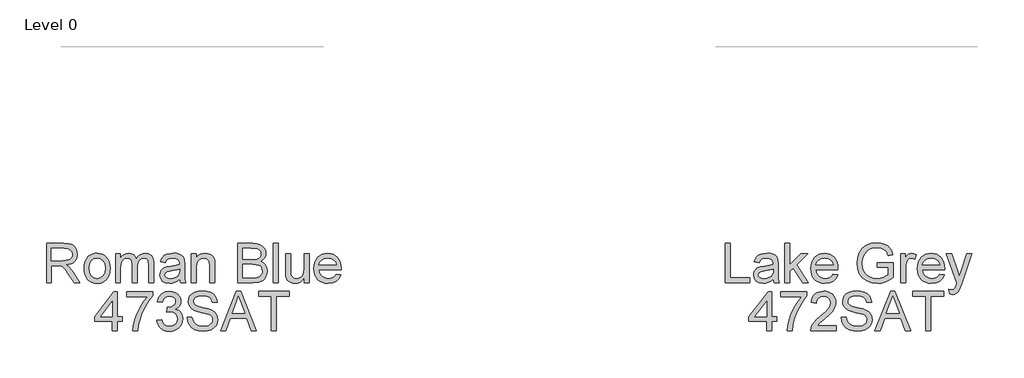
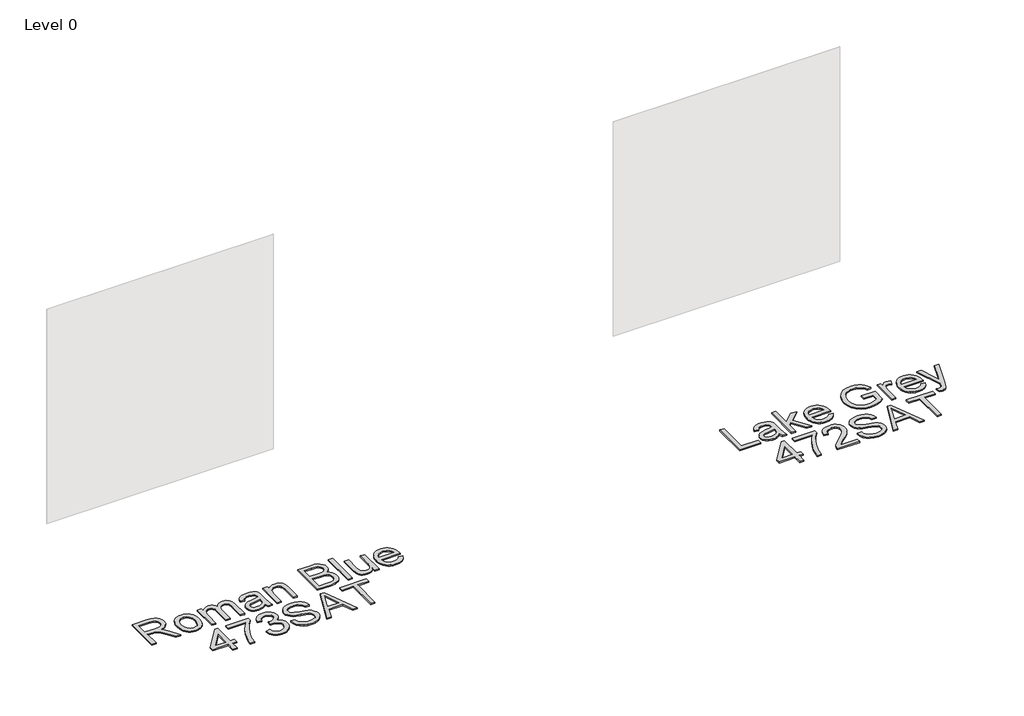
# One storey, part 34 of 37: 2 proxies.
"""IFC4 building model written with IfcOpenShell, lengths in millimetres."""

from ifc_helpers import new_model, si_unit, origin, origin_with_axes, place, context, project, spatial, polyline, outline, extrude, element, save

model = new_model("IFC4")

# Units and contexts
model_context = context("Model", 3, world=origin())
ifc_project = project(units=[si_unit("LENGTHUNIT", "METRE", prefix="MILLI")], contexts=[model_context])

# Site, building, storey
site = spatial("IfcSite", under=ifc_project)
building = spatial("IfcBuilding", under=site)
storey = spatial("IfcBuildingStorey", under=building, Name="Level 0", Elevation=0.0)

# Proxies
placement = place(None, origin())
element("IfcBuildingElementProxy", 1, Name="300mm Arial", ObjectType="300mm Arial", at=placement, inside=storey, context=model_context, shape_type="SweptSolid", body=[
    extrude(outline(polyline([(32435.6895679, -11982.860494), (32435.6895679, -11681.4915635), (32565.5519122, -11681.4915635), (32600.4547165, -11683.5241116), (32625.8477712, -11689.6217556), (32644.4074179, -11700.8789447), (32658.809998, -11718.3901276), (32668.0530331, -11740.1043624), (32671.1340448, -11763.9707069), (32666.0296821, -11793.6587839), (32650.7165941, -11818.2700893), (32639.1168149, -11828.2994722), (32624.7349282, -11836.3147012), (32587.6248319, -11846.3026974), (32609.035564, -11862.4159288), (32639.5697696, -11901.1906911), (32689.8224502, -11982.860494), (32646.0444927, -11982.860494), (32606.828272, -11920.3941312), (32578.5013584, -11879.0441949), (32558.5989425, -11859.509661), (32540.6830893, -11852.3359621), (32518.8308988, -11851.0115869), (32473.3606842, -11851.0115869), (32473.3606842, -11982.860494), (32435.6895679, -11982.860494)]), holes=[polyline([(32473.3606842, -11813.3404706), (32557.6792375, -11813.3404706), (32581.8950698, -11812.0068984), (32600.6846427, -11808.0061817), (32614.8297054, -11801.0716061), (32625.1120072, -11790.9364571), (32631.3751982, -11778.6767896), (32633.4629285, -11765.3686584), (32629.4806059, -11746.9929528), (32617.5336381, -11732.1857025), (32596.9782316, -11722.4184355), (32567.170593, -11719.1626798), (32473.3606842, -11719.1626798), (32473.3606842, -11813.3404706)])]), origin_with_axes(), (0.0, 0.0, 1.0), 10.0),
    extrude(outline(polyline([(32722.9318297, -11872.2015898), (32724.9689763, -11843.5389839), (32731.0804159, -11818.8403064), (32741.2661487, -11798.1055575), (32755.5261745, -11781.334737), (32769.8827694, -11770.6155754), (32785.7292863, -11762.9590314), (32803.0657253, -11758.3651049), (32821.8920864, -11756.8337961), (32842.6751199, -11758.698498), (32861.4669921, -11764.2926036), (32878.2677029, -11773.6161129), (32893.0772525, -11786.669026), (32905.1644753, -11803.0098843), (32913.7982059, -11822.1972296), (32918.9784442, -11844.2310619), (32920.7051903, -11869.1113811), (32917.6517698, -11907.1687735), (32908.4915081, -11936.1394806), (32893.4911197, -11957.8353213), (32872.9173192, -11974.0681143), (32848.4807576, -11984.1940662), (32821.8920864, -11987.5693835), (32800.8055503, -11985.7115794), (32781.8389342, -11980.1381672), (32764.9922381, -11970.8491468), (32750.265462, -11957.8445183), (32738.3069979, -11941.3450108), (32729.7652378, -11921.5713536), (32724.6401817, -11898.5235466), (32722.9318297, -11872.2015898)]), holes=[polyline([(32760.602946, -11872.1280134), (32764.9623477, -11906.2214773), (32778.0405526, -11930.5108861), (32797.7222393, -11945.0514219), (32821.8920864, -11949.8982672), (32845.9515689, -11945.0238308), (32865.5964675, -11930.4005215), (32878.6746724, -11905.789216), (32883.034074, -11870.950791), (32878.6470812, -11837.8506085), (32865.4861029, -11813.8922936), (32845.8136132, -11799.3517577), (32821.8920864, -11794.5049125), (32797.7222393, -11799.3333636), (32778.0405526, -11813.8187172), (32764.9623477, -11838.0529436), (32760.602946, -11872.1280134)])]), origin_with_axes(), (0.0, 0.0, 1.0), 10.0),
    extrude(outline(polyline([(32963.0851962, -11982.860494), (32963.0851962, -11761.5426857), (33000.7563125, -11761.5426857), (33000.7563125, -11797.9630032), (33012.0870779, -11781.2335695), (33026.6552049, -11768.1277734), (33043.9640528, -11759.6572905), (33063.5169809, -11756.8337961), (33084.4678605, -11759.7124728), (33101.2616736, -11768.3485026), (33113.8064496, -11782.1716686), (33122.0102181, -11800.6117536), (33135.7414136, -11781.4588972), (33151.4039895, -11767.7782855), (33168.9979459, -11759.5699185), (33188.5232828, -11756.8337961), (33216.8409994, -11761.3863358), (33237.782682, -11775.0439549), (33250.7229312, -11798.1745354), (33255.0363476, -11831.1459592), (33255.0363476, -11982.860494), (33217.3652312, -11982.860494), (33217.3652312, -11847.332767), (33213.8703523, -11815.8788564), (33208.9591277, -11807.2060383), (33201.2152117, -11800.3910244), (33191.2548066, -11795.9764404), (33179.6941149, -11794.5049125), (33159.2858613, -11798.2757029), (33142.648398, -11809.5880743), (33131.584347, -11829.2145787), (33127.89633, -11857.9277684), (33127.89633, -11982.860494), (33090.2252137, -11982.860494), (33090.2252137, -11843.1389122), (33088.0455129, -11821.8385447), (33081.5064104, -11806.6450183), (33070.000901, -11797.5399389), (33052.9219794, -11794.5049125), (33038.4090347, -11796.5282634), (33025.0365242, -11802.5983163), (33014.0000643, -11812.5679184), (33006.4952716, -11826.2899168), (33002.1910523, -11845.3278101), (33000.7563125, -11871.2450966), (33000.7563125, -11982.860494), (32963.0851962, -11982.860494)])), origin_with_axes(), (0.0, 0.0, 1.0), 10.0),
    extrude(outline(polyline([(33452.8097082, -11954.6071568), (33434.8110815, -11970.0398064), (33416.279026, -11980.1381672), (33396.7904773, -11985.7115794), (33375.9223712, -11987.5693835), (33344.4408694, -11983.0996173), (33321.2183185, -11969.6903186), (33306.8985118, -11949.3280501), (33302.1252429, -11923.9993748), (33303.9278647, -11908.3827841), (33309.33573, -11894.2009331), (33317.6774543, -11882.0608273), (33328.2816528, -11872.5694718), (33354.6587918, -11860.2086368), (33387.2531366, -11854.5432541), (33425.7703815, -11848.5835657), (33452.588979, -11841.5938078), (33452.8097082, -11833.2060983), (33450.2161401, -11816.3938912), (33442.4354359, -11805.3942195), (33425.0346175, -11797.2272392), (33400.791194, -11794.5049125), (33378.3503923, -11796.3167313), (33362.6786193, -11801.7521878), (33351.9916474, -11811.8045633), (33344.5052488, -11827.4671392), (33306.8341325, -11822.7582497), (33313.3732349, -11802.156858), (33323.1313049, -11785.9700502), (33337.0188502, -11773.590821), (33355.9463788, -11764.4121652), (33379.0953534, -11758.7283884), (33405.6472364, -11756.8337961), (33431.1138675, -11758.5076592), (33451.301392, -11763.5292485), (33466.5225095, -11771.0800264), (33477.0899198, -11780.3414556), (33484.0980718, -11791.7917827), (33488.6414145, -11805.9092543), (33490.4808245, -11838.8714811), (33490.4808245, -11885.7396473), (33492.3938108, -11951.1858542), (33499.8986035, -11982.860494), (33462.2274872, -11982.860494), (33452.8097082, -11954.6071568)]), holes=[polyline([(33452.8097082, -11879.2649241), (33392.0356026, -11890.8164188), (33359.6251988, -11896.9232599), (33344.9467072, -11906.8560738), (33339.7963592, -11921.3506244), (33342.6014595, -11932.5526311), (33351.0167601, -11941.7312869), (33364.8583202, -11947.8565221), (33383.9421987, -11949.8982672), (33404.1757084, -11947.64499), (33422.0547734, -11940.8851583), (33436.549324, -11930.9247533), (33446.6292906, -11919.069756), (33451.0990569, -11906.8560738), (33452.588979, -11889.933502), (33452.8097082, -11879.2649241)])]), origin_with_axes(), (0.0, 0.0, 1.0), 10.0),
    extrude(outline(polyline([(33542.2786094, -11982.860494), (33542.2786094, -11761.5426857), (33579.9497257, -11761.5426857), (33579.9497257, -11792.4447733), (33593.0371277, -11776.8649708), (33608.7548859, -11765.7365404), (33627.1030004, -11759.0594822), (33648.0814712, -11756.8337961), (33666.6503149, -11758.6272209), (33683.6556601, -11764.0074951), (33697.837511, -11772.303234), (33707.9358718, -11782.8430532), (33719.2298491, -11810.5445674), (33721.2164118, -11846.964885), (33721.2164118, -11982.860494), (33683.5452955, -11982.860494), (33683.5452955, -11852.0416565), (33679.204288, -11818.7115477), (33673.1986144, -11808.7879309), (33663.8636088, -11801.0900002), (33651.8982469, -11796.1511844), (33638.0015045, -11794.5049125), (33615.9377819, -11798.2021265), (33597.1298149, -11809.2937687), (33589.6135259, -11818.3482643), (33584.244748, -11830.7228949), (33579.9497257, -11865.4325611), (33579.9497257, -11982.860494), (33542.2786094, -11982.860494)])), origin_with_axes(), (0.0, 0.0, 1.0), 10.0),
    extrude(outline(polyline([(33895.4453248, -11982.860494), (33895.4453248, -11681.4915635), (34010.4452364, -11681.4915635), (34042.073891, -11683.7080526), (34066.7679699, -11690.3575196), (34085.6954986, -11701.6055116), (34100.0245023, -11717.6175755), (34109.0468082, -11736.4531336), (34112.0542435, -11756.1716086), (34109.5250548, -11774.317388), (34101.9374886, -11791.3779155), (34089.2363628, -11806.3047274), (34071.3664948, -11818.0493601), (34092.7128476, -11829.1961846), (34108.4857882, -11846.1555446), (34118.225464, -11867.8054), (34121.4720226, -11893.0237108), (34119.2555336, -11914.0389697), (34112.6060665, -11933.5275184), (34102.6824497, -11950.1006023), (34090.6435114, -11962.3694668), (34075.9006404, -11971.253817), (34057.8652256, -11977.6733578), (34009.5623197, -11982.860494), (33895.4453248, -11982.860494)]), holes=[polyline([(33933.1164411, -11803.9226915), (34001.9103742, -11803.9226915), (34042.083088, -11800.68533), (34056.1453773, -11795.1027207), (34066.2529351, -11786.7426024), (34072.3505792, -11775.7337336), (34074.3831272, -11762.2048733), (34072.4885349, -11749.071486), (34066.8047581, -11737.630356), (34057.5893141, -11728.7000206), (34045.0997204, -11723.0990172), (33996.6864498, -11719.1626798), (33933.1164411, -11719.1626798), (33933.1164411, -11803.9226915)]), polyline([(33933.1164411, -11945.1893777), (34010.37166, -11945.1893777), (34038.3306917, -11943.7178497), (34061.985504, -11935.5140812), (34077.657277, -11918.7754504), (34082.264999, -11906.9480443), (34083.8009063, -11893.3915928), (34081.9982845, -11877.6462434), (34076.5904192, -11864.1081859), (34067.145049, -11853.5223815), (34053.2299125, -11846.6337912), (34033.5206346, -11842.8538037), (34006.6928401, -11841.5938078), (33933.1164411, -11841.5938078), (33933.1164411, -11945.1893777)])]), origin_with_axes(), (0.0, 0.0, 1.0), 10.0),
    extrude(outline(polyline([(34168.560918, -11982.860494), (34168.560918, -11681.4915635), (34206.2320343, -11681.4915635), (34206.2320343, -11982.860494), (34168.560918, -11982.860494)])), origin_with_axes(), (0.0, 0.0, 1.0), 10.0),
    extrude(outline(polyline([(34404.0053949, -11982.860494), (34404.0053949, -11944.8214957), (34390.375367, -11963.5236966), (34374.5012589, -11976.8824116), (34356.3830706, -11984.8976405), (34336.0208022, -11987.5693835), (34317.6726877, -11985.6931853), (34300.593766, -11980.0645908), (34286.2647623, -11971.6033049), (34276.1664016, -11961.2290327), (34264.9460007, -11933.4907302), (34262.7387087, -11898.4683643), (34262.7387087, -11761.5426857), (34300.409825, -11761.5426857), (34300.409825, -11880.7364521), (34302.6906934, -11919.1433324), (34308.1813322, -11931.9548229), (34317.5899142, -11941.6944987), (34330.2910401, -11947.8473251), (34345.6593105, -11949.8982672), (34361.9104976, -11947.8013398), (34377.113221, -11941.5105577), (34389.6488, -11931.605335), (34397.8985538, -11918.6650858), (34402.4786846, -11900.9423707), (34404.0053949, -11876.6897502), (34404.0053949, -11761.5426857), (34441.6765112, -11761.5426857), (34441.6765112, -11982.860494), (34404.0053949, -11982.860494)])), origin_with_axes(), (0.0, 0.0, 1.0), 10.0),
    extrude(outline(polyline([(34648.4261925, -11916.9360404), (34685.3615448, -11921.64493), (34672.0534136, -11949.4752029), (34650.8174255, -11970.2789297), (34622.1318269, -11983.2467701), (34586.4748645, -11987.5693835), (34563.1005622, -11985.7046817), (34542.2738428, -11980.1105761), (34523.9947061, -11970.7870668), (34508.2631523, -11957.7341537), (34495.6126102, -11941.3151204), (34486.5765087, -11921.8932503), (34481.1548478, -11899.4685435), (34479.3476275, -11874.0409998), (34481.1732419, -11847.7512327), (34486.6500851, -11824.5792656), (34495.7781571, -11804.5250983), (34508.5574579, -11787.5887309), (34524.247625, -11774.133447), (34542.1082959, -11764.5225298), (34562.1394705, -11758.7559796), (34584.3411489, -11756.8337961), (34605.8277567, -11758.751381), (34625.2588238, -11764.5041357), (34642.6343503, -11774.0920602), (34657.9543362, -11787.5151545), (34670.4600247, -11804.4147337), (34679.3926594, -11824.4321128), (34684.7522402, -11847.5672917), (34686.5387672, -11873.8202706), (34686.318038, -11883.9738137), (34517.0187438, -11883.9738137), (34523.5394522, -11912.1719686), (34538.6869933, -11932.902119), (34560.5483809, -11945.6492302), (34587.2106285, -11949.8982672), (34607.2601972, -11947.9300985), (34624.1459808, -11942.0255925), (34637.8679792, -11931.8168672), (34648.4261925, -11916.9360404)]), holes=[polyline([(34517.0187438, -11846.3026974), (34648.8676509, -11846.3026974), (34643.7724852, -11826.4002814), (34633.7844891, -11812.1632482), (34611.821934, -11798.9194964), (34584.1939961, -11794.5049125), (34558.8009414, -11798.0273826), (34537.8040765, -11808.5947929), (34523.2083584, -11825.0667092), (34517.0187438, -11846.3026974)])]), origin_with_axes(), (0.0, 0.0, 1.0), 10.0),
    extrude(outline(polyline([(32939.5407485, -12348.7849475), (32939.5407485, -12278.1516044), (32802.9829519, -12278.1516044), (32802.9829519, -12240.4804881), (32948.9585276, -12052.1249066), (32977.2118648, -12052.1249066), (32977.2118648, -12240.4804881), (33014.8829811, -12240.4804881), (33014.8829811, -12278.1516044), (32977.2118648, -12278.1516044), (32977.2118648, -12348.7849475), (32939.5407485, -12348.7849475)]), holes=[polyline([(32939.5407485, -12240.4804881), (32939.5407485, -12124.0826249), (32849.3360833, -12240.4804881), (32939.5407485, -12240.4804881)])]), origin_with_axes(), (0.0, 0.0, 1.0), 10.0),
    extrude(outline(polyline([(33047.8452079, -12089.7960229), (33047.8452079, -12052.1249066), (33245.6185685, -12052.1249066), (33245.6185685, -12082.5855358), (33217.4296106, -12118.2608923), (33189.5165642, -12163.6299393), (33164.8960617, -12214.5540045), (33146.5847354, -12266.8944154), (33137.6084147, -12306.0554538), (33132.6052196, -12348.7849475), (33094.9341033, -12348.7849475), (33099.0083963, -12309.9550029), (33109.9069005, -12263.8042066), (33127.33531, -12214.8850983), (33150.9993193, -12167.7502177), (33178.6272572, -12125.1402856), (33207.9474522, -12089.7960229), (33047.8452079, -12089.7960229)])), origin_with_axes(), (0.0, 0.0, 1.0), 10.0),
    extrude(outline(polyline([(33278.5807952, -12268.7338254), (33316.2519115, -12264.0249358), (33324.6856063, -12287.6981422), (33337.0372443, -12303.6826149), (33353.9138308, -12312.7876943), (33375.9223712, -12315.8227207), (33401.7476872, -12311.6472601), (33421.6868914, -12299.1208782), (33434.4340025, -12280.4324728), (33438.6830395, -12257.7709419), (33434.4707907, -12236.2590422), (33421.8340442, -12218.8122386), (33402.7041804, -12207.2515469), (33379.0125799, -12203.397983), (33352.5986527, -12207.5182614), (33356.7925074, -12169.8471451), (33362.8257721, -12170.2886035), (33385.3953325, -12167.5846708), (33405.57366, -12159.4728728), (33419.8106932, -12145.7508744), (33424.5563709, -12126.2163404), (33421.1166743, -12109.9467592), (33410.7975843, -12096.7489926), (33395.0522349, -12088.0025982), (33375.33376, -12085.0871334), (33355.5784968, -12088.0301893), (33339.4284772, -12096.8593572), (33327.6378593, -12111.574637), (33320.9608011, -12132.1760288), (33283.2896848, -12127.4671392), (33294.3813269, -12093.6403898), (33314.118196, -12068.3852908), (33341.1207344, -12052.6583355), (33374.0093848, -12047.4160171), (33397.6917882, -12050.0003881), (33419.4428112, -12057.7535011), (33437.7817287, -12069.9855775), (33451.2278156, -12086.0068384), (33459.4775693, -12104.4653175), (33462.2274872, -12124.0090485), (33459.6155251, -12142.2192072), (33451.7796386, -12158.7371088), (33438.8301923, -12172.8085951), (33420.877551, -12183.6795081), (33444.4587869, -12193.2076518), (33461.9331816, -12209.4312477), (33472.7489123, -12231.4673793), (33476.3541558, -12258.4331295), (33474.5515341, -12277.5445992), (33469.1436687, -12295.1477526), (33460.1305599, -12311.2425899), (33447.5122074, -12325.829111), (33432.1393386, -12337.9324287), (33414.8626804, -12346.5776555), (33395.6822328, -12351.7647917), (33374.597996, -12353.4938371), (33355.5417086, -12352.0177105), (33338.1776785, -12347.589331), (33322.5059055, -12340.2086985), (33308.5263897, -12329.875813), (33296.8047496, -12317.1976797), (33287.9066038, -12302.781304), (33281.8319524, -12286.6266859), (33278.5807952, -12268.7338254)])), origin_with_axes(), (0.0, 0.0, 1.0), 10.0),
    extrude(outline(polyline([(33509.3163826, -12245.1893777), (33546.9874989, -12245.1893777), (33551.3101124, -12266.0942721), (33559.1276048, -12282.8972822), (33571.3228929, -12296.2330045), (33588.7788936, -12306.7360355), (33610.1160493, -12313.5510494), (33633.9548026, -12315.8227207), (33654.9424704, -12314.1028724), (33673.3181761, -12308.9433274), (33688.2081998, -12300.7763471), (33698.7388219, -12290.0341929), (33705.0020129, -12277.700949), (33707.0897432, -12264.7606998), (33705.5262447, -12252.1515444), (33700.8357493, -12241.2530403), (33691.3076056, -12231.9548229), (33675.2311624, -12224.1465276), (33620.379957, -12209.7623415), (33584.3735067, -12200.2433949), (33561.3348967, -12191.1843008), (33542.582112, -12178.510766), (33529.292375, -12163.1516928), (33521.373715, -12145.4381747), (33518.7341617, -12125.7013056), (33521.9991144, -12103.637583), (33531.7939725, -12083.0637824), (33547.8612187, -12065.6261758), (33569.9433354, -12052.9710352), (33596.4492332, -12045.2731044), (33625.7878223, -12042.7071275), (33657.5728267, -12045.3926661), (33685.3847055, -12053.4492818), (33708.2301774, -12066.7114277), (33725.115961, -12085.013557), (33735.8029329, -12107.2152354), (33740.05197, -12132.1760288), (33702.3808537, -12132.1760288), (33695.4646722, -12109.6984389), (33681.043698, -12093.4748429), (33658.5109258, -12083.6523936), (33627.2593503, -12080.3782438), (33595.2720108, -12083.6156054), (33573.3278498, -12093.3276901), (33560.6359209, -12107.6199056), (33556.405278, -12124.5976597), (33559.4035163, -12139.0738162), (33568.398231, -12150.7172813), (33589.6618104, -12161.1283418), (33629.9081006, -12171.7601314), (33671.4419779, -12181.8584922), (33696.5683182, -12190.669266), (33718.0434296, -12204.3360821), (33733.0254239, -12221.2034716), (33741.8270006, -12241.0874934), (33744.7608595, -12263.8042066), (33741.3855422, -12287.0267576), (33731.2595903, -12308.869751), (33714.796871, -12327.668521), (33692.4112516, -12341.7584014), (33665.4914866, -12350.5599781), (33635.4263306, -12353.4938371), (33598.5185694, -12350.3300519), (33568.1407136, -12340.8386964), (33543.9432754, -12324.9829824), (33525.5767668, -12302.7261217), (33513.7861489, -12275.6132187), (33509.3163826, -12245.1893777)])), origin_with_axes(), (0.0, 0.0, 1.0), 10.0),
    extrude(outline(polyline([(33766.1715917, -12348.7849475), (33886.4690041, -12047.4160171), (33918.5483141, -12047.4160171), (34038.8457265, -12348.7849475), (33999.0408946, -12348.7849475), (33964.5335634, -12254.6071568), (33840.4101783, -12254.6071568), (33805.9764235, -12348.7849475), (33766.1715917, -12348.7849475)]), holes=[polyline([(33854.2425413, -12216.9360404), (33950.7747768, -12216.9360404), (33923.6250856, -12142.8446066), (33902.5086591, -12085.0871334), (33883.7466773, -12136.3698835), (33854.2425413, -12216.9360404)])]), origin_with_axes(), (0.0, 0.0, 1.0), 10.0),
    extrude(outline(polyline([(34154.4342494, -12348.7849475), (34154.4342494, -12085.0871334), (34055.5475691, -12085.0871334), (34055.5475691, -12047.4160171), (34290.992046, -12047.4160171), (34290.992046, -12085.0871334), (34192.1053657, -12085.0871334), (34192.1053657, -12348.7849475), (34154.4342494, -12348.7849475)])), origin_with_axes(), (0.0, 0.0, 1.0), 10.0),
])
element("IfcBuildingElementProxy", 2, Name="300mm Arial", ObjectType="300mm Arial", at=placement, inside=storey, context=model_context, shape_type="SweptSolid", body=[
    extrude(outline(polyline([(37621.6907047, -11982.860494), (37621.6907047, -11681.4915635), (37659.361821, -11681.4915635), (37659.361821, -11945.1893777), (37810.0462862, -11945.1893777), (37810.0462862, -11982.860494), (37621.6907047, -11982.860494)])), origin_with_axes(), (0.0, 0.0, 1.0), 10.0),
    extrude(outline(polyline([(37988.9840886, -11954.6071568), (37970.985462, -11970.0398064), (37952.4534065, -11980.1381672), (37932.9648578, -11985.7115794), (37912.0967516, -11987.5693835), (37880.6152499, -11983.0996173), (37857.392699, -11969.6903186), (37843.0728923, -11949.3280501), (37838.2996234, -11923.9993748), (37840.1022452, -11908.3827841), (37845.5101105, -11894.2009331), (37853.8518348, -11882.0608273), (37864.4560333, -11872.5694718), (37890.8331723, -11860.2086368), (37923.4275171, -11854.5432541), (37961.944762, -11848.5835657), (37988.7633594, -11841.5938078), (37988.9840886, -11833.2060983), (37986.3905206, -11816.3938912), (37978.6098164, -11805.3942195), (37961.208998, -11797.2272392), (37936.9655745, -11794.5049125), (37914.5247728, -11796.3167313), (37898.8529998, -11801.7521878), (37888.1660279, -11811.8045633), (37880.6796293, -11827.4671392), (37843.008513, -11822.7582497), (37849.5476154, -11802.156858), (37859.3056853, -11785.9700502), (37873.1932307, -11773.590821), (37892.1207593, -11764.4121652), (37915.2697339, -11758.7283884), (37941.8216169, -11756.8337961), (37967.288248, -11758.5076592), (37987.4757725, -11763.5292485), (38002.69689, -11771.0800264), (38013.2643003, -11780.3414556), (38020.2724523, -11791.7917827), (38024.815795, -11805.9092543), (38026.6552049, -11838.8714811), (38026.6552049, -11885.7396473), (38028.5681913, -11951.1858542), (38036.072984, -11982.860494), (37998.4018677, -11982.860494), (37988.9840886, -11954.6071568)]), holes=[polyline([(37988.9840886, -11879.2649241), (37928.209983, -11890.8164188), (37895.7995793, -11896.9232599), (37881.1210877, -11906.8560738), (37875.9707397, -11921.3506244), (37878.7758399, -11932.5526311), (37887.1911406, -11941.7312869), (37901.0327006, -11947.8565221), (37920.1165791, -11949.8982672), (37940.3500889, -11947.64499), (37958.2291538, -11940.8851583), (37972.7237045, -11930.9247533), (37982.8036711, -11919.069756), (37987.2734374, -11906.8560738), (37988.7633594, -11889.933502), (37988.9840886, -11879.2649241)])]), origin_with_axes(), (0.0, 0.0, 1.0), 10.0),
    extrude(outline(polyline([(38078.4529899, -11982.860494), (38078.4529899, -11681.4915635), (38116.1241062, -11681.4915635), (38116.1241062, -11843.4332178), (38200.5898123, -11761.5426857), (38252.6819028, -11761.5426857), (38167.1861271, -11844.4632874), (38257.3907923, -11982.860494), (38213.3921057, -11982.860494), (38140.1835887, -11870.6564855), (38116.1241062, -11893.9802039), (38116.1241062, -11982.860494), (38078.4529899, -11982.860494)])), origin_with_axes(), (0.0, 0.0, 1.0), 10.0),
    extrude(outline(polyline([(38445.3049155, -11916.9360404), (38482.2402678, -11921.64493), (38468.9321366, -11949.4752029), (38447.6961484, -11970.2789297), (38419.0105499, -11983.2467701), (38383.3535875, -11987.5693835), (38359.9792852, -11985.7046817), (38339.1525657, -11980.1105761), (38320.8734291, -11970.7870668), (38305.1418753, -11957.7341537), (38292.4913332, -11941.3151204), (38283.4552317, -11921.8932503), (38278.0335708, -11899.4685435), (38276.2263505, -11874.0409998), (38278.0519649, -11847.7512327), (38283.5288081, -11824.5792656), (38292.6568801, -11804.5250983), (38305.4361809, -11787.5887309), (38321.126348, -11774.133447), (38338.9870189, -11764.5225298), (38359.0181935, -11758.7559796), (38381.2198719, -11756.8337961), (38402.7064797, -11758.751381), (38422.1375468, -11764.5041357), (38439.5130733, -11774.0920602), (38454.8330591, -11787.5151545), (38467.3387477, -11804.4147337), (38476.2713824, -11824.4321128), (38481.6309632, -11847.5672917), (38483.4174902, -11873.8202706), (38483.196761, -11883.9738137), (38313.8974668, -11883.9738137), (38320.4181751, -11912.1719686), (38335.5657163, -11932.902119), (38357.4271039, -11945.6492302), (38384.0893515, -11949.8982672), (38404.1389202, -11947.9300985), (38421.0247038, -11942.0255925), (38434.7467022, -11931.8168672), (38445.3049155, -11916.9360404)]), holes=[polyline([(38313.8974668, -11846.3026974), (38445.7463739, -11846.3026974), (38440.6512082, -11826.4002814), (38430.663212, -11812.1632482), (38408.7006569, -11798.9194964), (38381.0727191, -11794.5049125), (38355.6796644, -11798.0273826), (38334.6827995, -11808.5947929), (38320.0870813, -11825.0667092), (38313.8974668, -11846.3026974)])]), origin_with_axes(), (0.0, 0.0, 1.0), 10.0),
    extrude(outline(polyline([(38784.7864206, -11865.1382555), (38784.7864206, -11827.4671392), (38907.2175486, -11827.4671392), (38907.2175486, -11940.1126061), (38877.4650922, -11960.8059684), (38846.7745368, -11975.6500069), (38815.2194587, -11984.5895394), (38782.8734342, -11987.5693835), (38740.61299, -11982.8329028), (38702.4176419, -11968.6234608), (38670.6878198, -11945.437698), (38647.8239538, -11913.7722553), (38634.0007878, -11875.7884393), (38629.3930658, -11833.6475567), (38633.9823937, -11791.2031715), (38647.7503774, -11751.7202364), (38670.1267998, -11718.6016598), (38700.5414437, -11695.2503502), (38737.5871606, -11681.399593), (38779.8568019, -11676.782674), (38810.8876482, -11679.4590155), (38838.7914975, -11687.4880401), (38862.2899599, -11700.2903335), (38880.1046456, -11717.2864817), (38893.284018, -11739.295022), (38902.8765411, -11767.134492), (38868.1484807, -11776.9201531), (38860.3953677, -11757.0637224), (38850.9683915, -11742.0817281), (38838.4971919, -11730.7877509), (38821.6114083, -11721.9953712), (38801.4790661, -11716.3391855), (38779.2681907, -11714.4537903), (38753.2681307, -11716.4863383), (38731.0388611, -11722.5839824), (38712.6631555, -11731.9833674), (38698.2237871, -11743.9211381), (38678.836406, -11772.9470275), (38670.0072381, -11801.3843058), (38667.0641821, -11832.1024524), (38670.6050464, -11868.1272967), (38681.227639, -11897.7693885), (38698.6100632, -11920.8171955), (38722.4304224, -11937.0591856), (38750.3066806, -11946.6884968), (38779.8568019, -11949.8982672), (38805.9488324, -11947.4794431), (38831.3970694, -11940.2229707), (38853.4975803, -11930.2257775), (38869.5464323, -11919.5847908), (38869.5464323, -11865.1382555), (38784.7864206, -11865.1382555)])), origin_with_axes(), (0.0, 0.0, 1.0), 10.0),
    extrude(outline(polyline([(38963.7242231, -11982.860494), (38963.7242231, -11761.5426857), (38996.6864498, -11761.5426857), (38996.6864498, -11794.2841833), (39008.8633439, -11775.3014723), (39020.0837447, -11764.1178596), (39031.3409338, -11758.654812), (39043.6281924, -11756.8337961), (39062.3901742, -11759.7400639), (39081.4464615, -11768.4588672), (39068.8648973, -11802.2304343), (39055.6211455, -11796.4362929), (39042.3773936, -11794.5049125), (39031.1294016, -11796.3627165), (39021.0770261, -11801.9361288), (39012.9560311, -11810.8020848), (39007.5021805, -11822.5375205), (39002.9220496, -11843.5803706), (39001.3953394, -11866.5362071), (39001.3953394, -11982.860494), (38963.7242231, -11982.860494)])), origin_with_axes(), (0.0, 0.0, 1.0), 10.0),
    extrude(outline(polyline([(39259.9428056, -11916.9360404), (39296.8781579, -11921.64493), (39283.5700267, -11949.4752029), (39262.3340385, -11970.2789297), (39233.64844, -11983.2467701), (39197.9914776, -11987.5693835), (39174.6171753, -11985.7046817), (39153.7904559, -11980.1105761), (39135.5113192, -11970.7870668), (39119.7797654, -11957.7341537), (39107.1292233, -11941.3151204), (39098.0931218, -11921.8932503), (39092.6714609, -11899.4685435), (39090.8642406, -11874.0409998), (39092.689855, -11847.7512327), (39098.1666982, -11824.5792656), (39107.2947702, -11804.5250983), (39120.074071, -11787.5887309), (39135.7642381, -11774.133447), (39153.624909, -11764.5225298), (39173.6560836, -11758.7559796), (39195.857762, -11756.8337961), (39217.3443698, -11758.751381), (39236.7754369, -11764.5041357), (39254.1509634, -11774.0920602), (39269.4709493, -11787.5151545), (39281.9766378, -11804.4147337), (39290.9092725, -11824.4321128), (39296.2688533, -11847.5672917), (39298.0553803, -11873.8202706), (39297.8346511, -11883.9738137), (39128.5353569, -11883.9738137), (39135.0560653, -11912.1719686), (39150.2036064, -11932.902119), (39172.064994, -11945.6492302), (39198.7272416, -11949.8982672), (39218.7768103, -11947.9300985), (39235.6625939, -11942.0255925), (39249.3845923, -11931.8168672), (39259.9428056, -11916.9360404)]), holes=[polyline([(39128.5353569, -11846.3026974), (39260.384264, -11846.3026974), (39255.2890983, -11826.4002814), (39245.3011022, -11812.1632482), (39223.3385471, -11798.9194964), (39195.7106092, -11794.5049125), (39170.3175545, -11798.0273826), (39149.3206896, -11808.5947929), (39134.7249715, -11825.0667092), (39128.5353569, -11846.3026974)])]), origin_with_axes(), (0.0, 0.0, 1.0), 10.0),
    extrude(outline(polyline([(39335.7264966, -12067.6205057), (39331.017607, -12031.3473409), (39350.1474708, -12034.6582789), (39368.0265358, -12030.5012124), (39378.9894192, -12018.9129295), (39389.2901151, -11991.1746271), (39392.233171, -11982.0511536), (39312.1820489, -11761.5426857), (39351.9133044, -11761.5426857), (39394.3668866, -11884.4152721), (39409.1557428, -11933.5643066), (39423.944599, -11890.1542312), (39467.5754037, -11761.5426857), (39507.0123535, -11761.5426857), (39429.9778637, -11988.1579947), (39409.9650832, -12037.3070293), (39399.7195696, -12052.9971964), (39388.1128927, -12063.8681093), (39374.6300176, -12070.2140737), (39358.7559095, -12072.3293952), (39335.7264966, -12067.6205057)])), origin_with_axes(), (0.0, 0.0, 1.0), 10.0),
    extrude(outline(polyline([(37939.5407485, -12348.7849475), (37939.5407485, -12278.1516044), (37802.9829519, -12278.1516044), (37802.9829519, -12240.4804881), (37948.9585276, -12052.1249066), (37977.2118648, -12052.1249066), (37977.2118648, -12240.4804881), (38014.8829811, -12240.4804881), (38014.8829811, -12278.1516044), (37977.2118648, -12278.1516044), (37977.2118648, -12348.7849475), (37939.5407485, -12348.7849475)]), holes=[polyline([(37939.5407485, -12240.4804881), (37939.5407485, -12124.0826249), (37849.3360833, -12240.4804881), (37939.5407485, -12240.4804881)])]), origin_with_axes(), (0.0, 0.0, 1.0), 10.0),
    extrude(outline(polyline([(38047.8452079, -12089.7960229), (38047.8452079, -12052.1249066), (38245.6185685, -12052.1249066), (38245.6185685, -12082.5855358), (38217.4296106, -12118.2608923), (38189.5165642, -12163.6299393), (38164.8960617, -12214.5540045), (38146.5847354, -12266.8944154), (38137.6084147, -12306.0554538), (38132.6052196, -12348.7849475), (38094.9341033, -12348.7849475), (38099.0083963, -12309.9550029), (38109.9069005, -12263.8042066), (38127.33531, -12214.8850983), (38150.9993193, -12167.7502177), (38178.6272572, -12125.1402856), (38207.9474522, -12089.7960229), (38047.8452079, -12089.7960229)])), origin_with_axes(), (0.0, 0.0, 1.0), 10.0),
    extrude(outline(polyline([(38471.6452663, -12311.1138312), (38471.6452663, -12348.7849475), (38273.8719057, -12348.7849475), (38277.9186077, -12322.8124787), (38287.207628, -12302.5145896), (38300.8008678, -12282.8237058), (38320.4641604, -12262.213117), (38347.9633395, -12239.156113), (38388.6143, -12203.0484951), (38413.0048763, -12176.3954446), (38425.2001644, -12154.7639833), (38429.2652605, -12133.7211331), (38425.4300907, -12114.8579838), (38413.9245813, -12099.1770138), (38396.2386544, -12088.6096035), (38373.862232, -12085.0871334), (38350.3637696, -12088.52683), (38332.1076255, -12098.84592), (38320.3262046, -12115.2350629), (38316.2519115, -12136.8849183), (38278.5807952, -12132.1760288), (38287.7134658, -12095.7373171), (38296.2598244, -12081.2013798), (38307.4595319, -12069.1210548), (38321.0550708, -12059.6251008), (38336.7889239, -12052.8422765), (38374.6715724, -12047.4160171), (38394.8613961, -12048.9243332), (38412.8301323, -12053.4492818), (38428.577781, -12060.9908627), (38442.1043421, -12071.549076), (38452.9683573, -12084.3421723), (38460.7283681, -12098.5884026), (38465.3843746, -12114.2877667), (38466.9363768, -12131.4402648), (38465.2625137, -12149.4572855), (38460.2409245, -12167.1616065), (38451.3289831, -12185.1694302), (38437.9840638, -12204.0969588), (38416.7112874, -12226.6941104), (38384.0157751, -12255.7108027), (38340.679276, -12291.9471793), (38323.6831279, -12311.1138312), (38471.6452663, -12311.1138312)])), origin_with_axes(), (0.0, 0.0, 1.0), 10.0),
    extrude(outline(polyline([(38509.3163826, -12245.1893777), (38546.9874989, -12245.1893777), (38551.3101124, -12266.0942721), (38559.1276048, -12282.8972822), (38571.3228929, -12296.2330045), (38588.7788936, -12306.7360355), (38610.1160493, -12313.5510494), (38633.9548026, -12315.8227207), (38654.9424704, -12314.1028724), (38673.3181761, -12308.9433274), (38688.2081998, -12300.7763471), (38698.7388219, -12290.0341929), (38705.0020129, -12277.700949), (38707.0897432, -12264.7606998), (38705.5262447, -12252.1515444), (38700.8357493, -12241.2530403), (38691.3076056, -12231.9548229), (38675.2311624, -12224.1465276), (38620.379957, -12209.7623415), (38584.3735067, -12200.2433949), (38561.3348967, -12191.1843008), (38542.582112, -12178.510766), (38529.292375, -12163.1516928), (38521.373715, -12145.4381747), (38518.7341617, -12125.7013056), (38521.9991144, -12103.637583), (38531.7939725, -12083.0637824), (38547.8612187, -12065.6261758), (38569.9433354, -12052.9710352), (38596.4492332, -12045.2731044), (38625.7878223, -12042.7071275), (38657.5728267, -12045.3926661), (38685.3847055, -12053.4492818), (38708.2301774, -12066.7114277), (38725.115961, -12085.013557), (38735.8029329, -12107.2152354), (38740.05197, -12132.1760288), (38702.3808537, -12132.1760288), (38695.4646722, -12109.6984389), (38681.043698, -12093.4748429), (38658.5109258, -12083.6523936), (38627.2593503, -12080.3782438), (38595.2720108, -12083.6156054), (38573.3278498, -12093.3276901), (38560.6359209, -12107.6199056), (38556.405278, -12124.5976597), (38559.4035163, -12139.0738162), (38568.398231, -12150.7172813), (38589.6618104, -12161.1283418), (38629.9081006, -12171.7601314), (38671.4419779, -12181.8584922), (38696.5683182, -12190.669266), (38718.0434296, -12204.3360821), (38733.0254239, -12221.2034716), (38741.8270006, -12241.0874934), (38744.7608595, -12263.8042066), (38741.3855422, -12287.0267576), (38731.2595903, -12308.869751), (38714.796871, -12327.668521), (38692.4112516, -12341.7584014), (38665.4914866, -12350.5599781), (38635.4263306, -12353.4938371), (38598.5185694, -12350.3300519), (38568.1407136, -12340.8386964), (38543.9432754, -12324.9829824), (38525.5767668, -12302.7261217), (38513.7861489, -12275.6132187), (38509.3163826, -12245.1893777)])), origin_with_axes(), (0.0, 0.0, 1.0), 10.0),
    extrude(outline(polyline([(38766.1715917, -12348.7849475), (38886.4690041, -12047.4160171), (38918.5483141, -12047.4160171), (39038.8457265, -12348.7849475), (38999.0408946, -12348.7849475), (38964.5335634, -12254.6071568), (38840.4101783, -12254.6071568), (38805.9764235, -12348.7849475), (38766.1715917, -12348.7849475)]), holes=[polyline([(38854.2425413, -12216.9360404), (38950.7747768, -12216.9360404), (38923.6250856, -12142.8446066), (38902.5086591, -12085.0871334), (38883.7466773, -12136.3698835), (38854.2425413, -12216.9360404)])]), origin_with_axes(), (0.0, 0.0, 1.0), 10.0),
    extrude(outline(polyline([(39154.4342494, -12348.7849475), (39154.4342494, -12085.0871334), (39055.5475691, -12085.0871334), (39055.5475691, -12047.4160171), (39290.992046, -12047.4160171), (39290.992046, -12085.0871334), (39192.1053657, -12085.0871334), (39192.1053657, -12348.7849475), (39154.4342494, -12348.7849475)])), origin_with_axes(), (0.0, 0.0, 1.0), 10.0),
])

save(model, "model.ifc")
